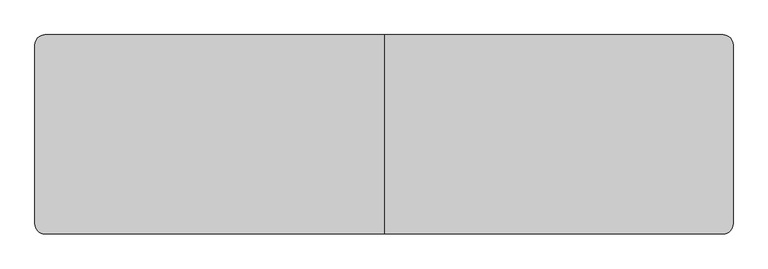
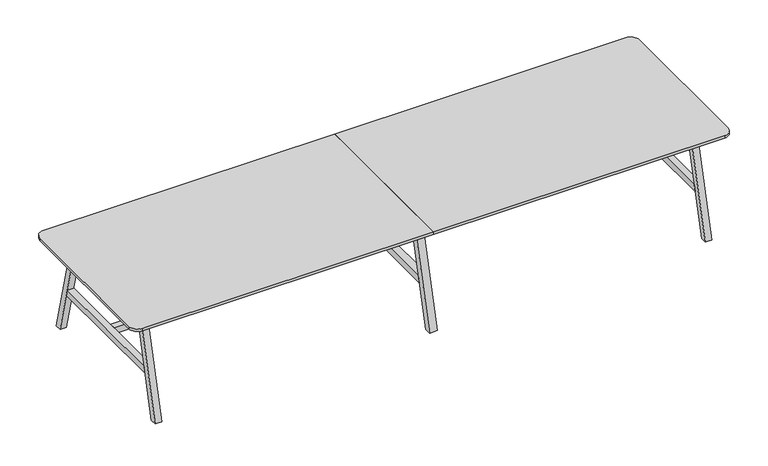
"""IFC4 building model written with IfcOpenShell, lengths in millimetres: furniture geometry, BDG_BossDesign_Tbls_AgentTables6Legs : AGE-DT-6L-4200-1200-3D."""

from ifc_helpers import new_model, si_unit, point, frame, frame_2d, origin, place, context, project, spatial, polyline, circle_curve, trimmed, segment, composite_curve, outline, extrude, source, transform, mapped, element, save


def furniture_764c62b1(model_context):
    return source(origin(), model_context, "Body", "SweptSolid", [
        extrude(outline(polyline([(600.0, 0.0), (554.9999949, 0.0), (385.5, 660.0), (430.5000051, 660.0), (600.0, 0.0)])), frame((-27.5, 0.0, 0.0), z_axis=(1.0, 0.0, 0.0), x_axis=(0.0, 1.0, 0.0)), (0.0, 0.0, 1.0), 55.0),
        extrude(outline(polyline([(-600.0, 0.0), (-430.5000051, 660.0), (-385.5, 660.0), (-554.9999949, 0.0), (-600.0, 0.0)])), frame((-27.5, 0.0, 0.0), z_axis=(1.0, 0.0, 0.0), x_axis=(0.0, 1.0, 0.0)), (0.0, 0.0, 1.0), 55.0),
        extrude(outline(polyline([(477.9545427, 300.0), (-477.9545427, 300.0), (-466.3977249, 345.0), (466.3977249, 345.0), (477.9545427, 300.0)])), frame((-27.5, 0.0, 0.0), z_axis=(1.0, 0.0, 0.0), x_axis=(0.0, 1.0, 0.0)), (0.0, 0.0, 1.0), 55.0),
        extrude(outline(composite_curve([segment(polyline([(0.0, 600.0), (0.0, -600.0), (-2040.0, -600.0)]), True, "CONTINUOUS"), segment(trimmed(circle_curve(frame_2d((-2040.0, -540.0)), 60.0), [point((-2040.0, -600.0))], [point((-2100.0, -540.0))], False, "CARTESIAN"), True, "CONTINUOUS"), segment(polyline([(-2100.0, -540.0), (-2100.0, 540.0)]), True, "CONTINUOUS"), segment(trimmed(circle_curve(frame_2d((-2040.0, 540.0)), 60.0), [point((-2100.0, 540.0))], [point((-2040.0, 600.0))], False, "CARTESIAN"), True, "CONTINUOUS"), segment(polyline([(-2040.0, 600.0), (0.0, 600.0)]), True, "CONTINUOUS")], self_intersect=False)), frame((0.0, 0.0, 722.0), z_axis=(0.0, 0.0, 1.0), x_axis=(1.0, 0.0, 0.0)), (0.0, 0.0, 1.0), 18.0),
        extrude(outline(polyline([(-466.3977249, 345.0), (466.3977249, 345.0), (477.9545427, 300.0), (-477.9545427, 300.0), (-466.3977249, 345.0)])), frame((1905.0, 0.0, 0.0), z_axis=(1.0, 0.0, 0.0), x_axis=(0.0, 1.0, 0.0)), (0.0, 0.0, 1.0), 45.0),
        extrude(outline(polyline([(600.0, 0.0), (554.9999949, 0.0), (385.5, 660.0), (430.5000051, 660.0), (600.0, 0.0)])), frame((-1950.0, 0.0, 0.0), z_axis=(1.0, 0.0, 0.0), x_axis=(0.0, 1.0, 0.0)), (0.0, 0.0, 1.0), 45.0),
        extrude(outline(polyline([(-600.0, 0.0), (-430.5000051, 660.0), (-385.5, 660.0), (-554.9999949, 0.0), (-600.0, 0.0)])), frame((-1950.0, 0.0, 0.0), z_axis=(1.0, 0.0, 0.0), x_axis=(0.0, 1.0, 0.0)), (0.0, 0.0, 1.0), 45.0),
        extrude(outline(polyline([(-466.3977249, 345.0), (466.3977249, 345.0), (477.9545427, 300.0), (-477.9545427, 300.0), (-466.3977249, 345.0)])), frame((-1950.0, 0.0, 0.0), z_axis=(1.0, 0.0, 0.0), x_axis=(0.0, 1.0, 0.0)), (0.0, 0.0, 1.0), 45.0),
        extrude(outline(polyline([(-426.6006165, 634.973938), (-404.2770691, 722.0), (-379.5, 722.0), (-401.8235474, 634.973938), (-426.6006165, 634.973938)])), frame((-1905.0, 0.0, 0.0), z_axis=(1.0, 0.0, 0.0), x_axis=(0.0, 1.0, 0.0)), (0.0, 0.0, 1.0), 3810.0),
        extrude(outline(polyline([(426.6006165, 634.973938), (401.8235474, 634.973938), (379.5, 722.0), (404.2770691, 722.0), (426.6006165, 634.973938)])), frame((-1905.0, 0.0, 0.0), z_axis=(1.0, 0.0, 0.0), x_axis=(0.0, 1.0, 0.0)), (0.0, 0.0, 1.0), 3810.0),
        extrude(outline(polyline([(599.7999878, 0.0), (554.7999827, 0.0), (385.5, 660.0), (430.5000051, 660.0), (599.7999878, 0.0)])), frame((1905.0, 0.0, 0.0), z_axis=(1.0, 0.0, 0.0), x_axis=(0.0, 1.0, 0.0)), (0.0, 0.0, 1.0), 45.0),
        extrude(outline(polyline([(-599.7999878, 0.0), (-430.5000051, 660.0), (-385.5, 660.0), (-554.7999827, 0.0), (-599.7999878, 0.0)])), frame((1905.0, 0.0, 0.0), z_axis=(1.0, 0.0, 0.0), x_axis=(0.0, 1.0, 0.0)), (0.0, 0.0, 1.0), 45.0),
        extrude(outline(polyline([(-27.5, 22.5000305), (-27.5, -22.5000305), (-1905.0, -22.5000305), (-1905.0, 22.5000305), (-27.5, 22.5000305)])), frame((0.0, 0.0, 300.0), z_axis=(0.0, 0.0, 1.0), x_axis=(1.0, 0.0, 0.0)), (0.0, 0.0, 1.0), 45.0),
        extrude(outline(polyline([(27.5, -22.5000305), (27.5, 22.5000305), (1905.0, 22.5000305), (1905.0, -22.5000305), (27.5, -22.5000305)])), frame((0.0, 0.0, 300.0), z_axis=(0.0, 0.0, 1.0), x_axis=(1.0, 0.0, 0.0)), (0.0, 0.0, 1.0), 45.0),
        extrude(outline(composite_curve([segment(trimmed(circle_curve(frame_2d((2040.0, 540.0)), 60.0), [point((2040.0, 600.0))], [point((2100.0, 540.0))], False, "CARTESIAN"), True, "CONTINUOUS"), segment(polyline([(2100.0, 540.0), (2100.0, -540.0)]), True, "CONTINUOUS"), segment(trimmed(circle_curve(frame_2d((2040.0, -540.0)), 60.0), [point((2100.0, -540.0))], [point((2040.0, -600.0))], False, "CARTESIAN"), True, "CONTINUOUS"), segment(polyline([(2040.0, -600.0), (0.0, -600.0), (0.0, 600.0), (2040.0, 600.0)]), True, "CONTINUOUS")], self_intersect=False)), frame((0.0, 0.0, 722.0), z_axis=(0.0, 0.0, 1.0), x_axis=(1.0, 0.0, 0.0)), (0.0, 0.0, 1.0), 18.0),
    ])


if __name__ == "__main__":
    model = new_model("IFC4")
    model_context = context("Model", 3, world=origin())
    ifc_project = project(units=[si_unit("LENGTHUNIT", "METRE", prefix="MILLI")], contexts=[model_context])
    site = spatial("IfcSite", under=ifc_project)
    building = spatial("IfcBuilding", under=site)
    placement = place(None, origin())
    furniture_shape = furniture_764c62b1(model_context)
    element("IfcFurniture", 1, ObjectType="BDG_BossDesign_Tbls_AgentTables6Legs : AGE-DT-6L-4200-1200-3D", at=placement, inside=building, context=model_context, shape_type="MappedRepresentation", body=[
        mapped(furniture_shape, transform((0.0, 0.0, 0.0), x_axis=(1.0, 0.0, 0.0), y_axis=(0.0, 1.0, 0.0), z_axis=(0.0, 0.0, 1.0))),
    ])
    save(model, "model.ifc")
